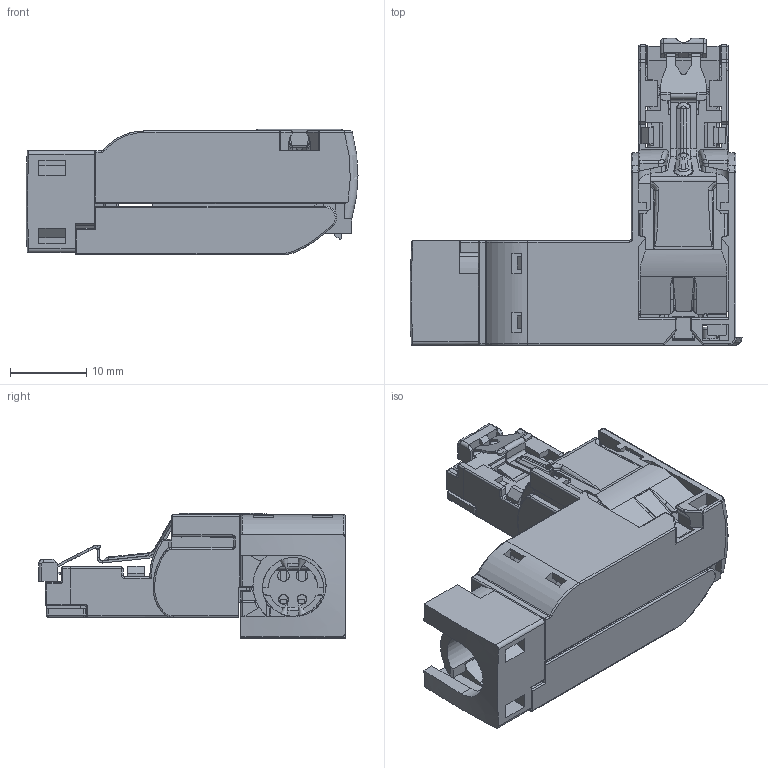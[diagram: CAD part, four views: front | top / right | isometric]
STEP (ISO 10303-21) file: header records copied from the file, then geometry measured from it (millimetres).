
FILE_DESCRIPTION(/* description */ (''),/* implementation_level */ '2;1');
FILE_NAME(/* name */ '901-1BG11.stp',/* time_stamp */ '2023-02-22T09:32:30+08:00',/* author */ (''),/* organization */ (''),/* preprocessor_version */ 'ST-DEVELOPER v16.7',/* originating_system */ 'SIEMENS PLM Software NX 12.0',/* authorisation */ '');
FILE_SCHEMA (('AUTOMOTIVE_DESIGN { 1 0 10303 214 3 1 1 1 }'));
Products named in the file (1): 901-1BG11
Bounding box: 43.43 x 40.15 x 16.46 mm (x, y, z)
Volume: 6157.4 mm3; surface area: 12676.4 mm2
Topology: 6 solids, 6 shells, 1888 faces, 5230 edges, 3311 vertices
Faces by surface type: plane 1150, cylinder 469, bspline 108, torus 66, sphere 57, cone 36, extrusion 2
Full cylindrical faces by diameter (mm): 1.2 x2, 1.8 x2
Entity records: 70194 total; most frequent: CARTESIAN_POINT 19563, ORIENTED_EDGE 10304, DIRECTION 9440, EDGE_CURVE 5152, VECTOR 3688, LINE 3686, VERTEX_POINT 3287, AXIS2_PLACEMENT_3D 2876
